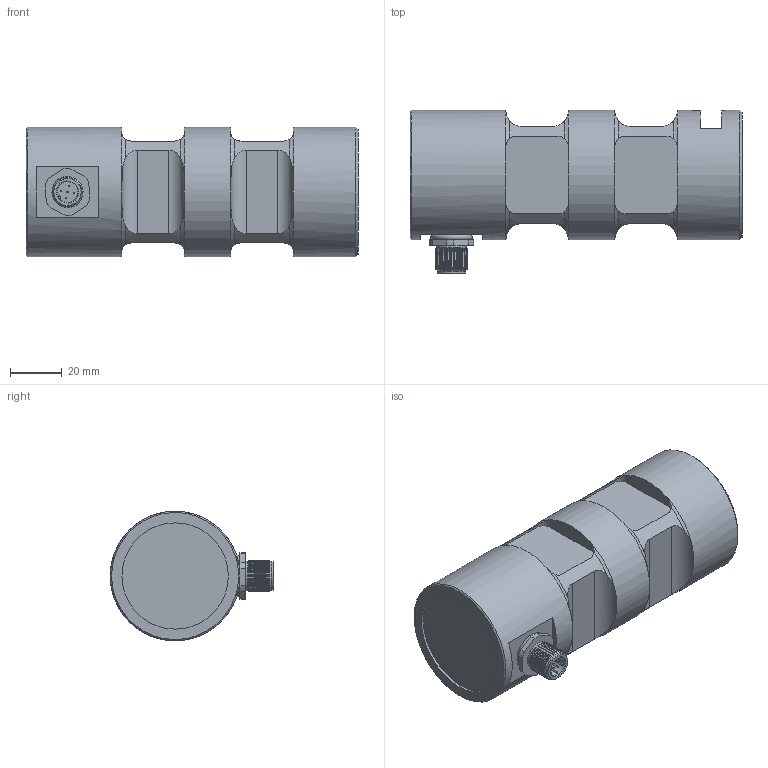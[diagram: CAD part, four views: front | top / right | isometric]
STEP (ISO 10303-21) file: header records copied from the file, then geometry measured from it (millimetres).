
FILE_DESCRIPTION(/* description */ ('Alibre Inc.'),/* implementation_level */ '2;1');
FILE_NAME(/* name */ 'export-2C8D7E98-05E7-4F36-BD12-3867B3E887BD',/* time_stamp */ '2020-12-11T12:48:17+01:00',/* author */ (''),/* organization */ (''),/* preprocessor_version */ 'ST-DEVELOPER v17',/* originating_system */ 'Alibre',/* authorisation */ '');
FILE_SCHEMA (('CONFIG_CONTROL_DESIGN'));
Length unit declared in the file: millimetre
Bounding box: 128 x 63 x 50 mm (x, y, z)
Volume: 348664.6 mm3; surface area: 180202 mm2
Topology: 7 solids, 8 shells, 256 faces, 567 edges, 335 vertices
Faces by surface type: cylinder 88, plane 79, cone 71, torus 18
Full cylindrical faces by diameter (mm): 0.5 x10, 8 x2, 10 x1, 11 x1, 11.5 x1, 12 x21, 13 x2, 14.5 x1, 41 x1, 50 x3
Entity records: 6440 total; most frequent: CARTESIAN_POINT 1701, ORIENTED_EDGE 926, DIRECTION 738, EDGE_CURVE 457, EDGE_LOOP 371, FACE_BOUND 371, AXIS2_PLACEMENT_3D 341, VERTEX_POINT 320
